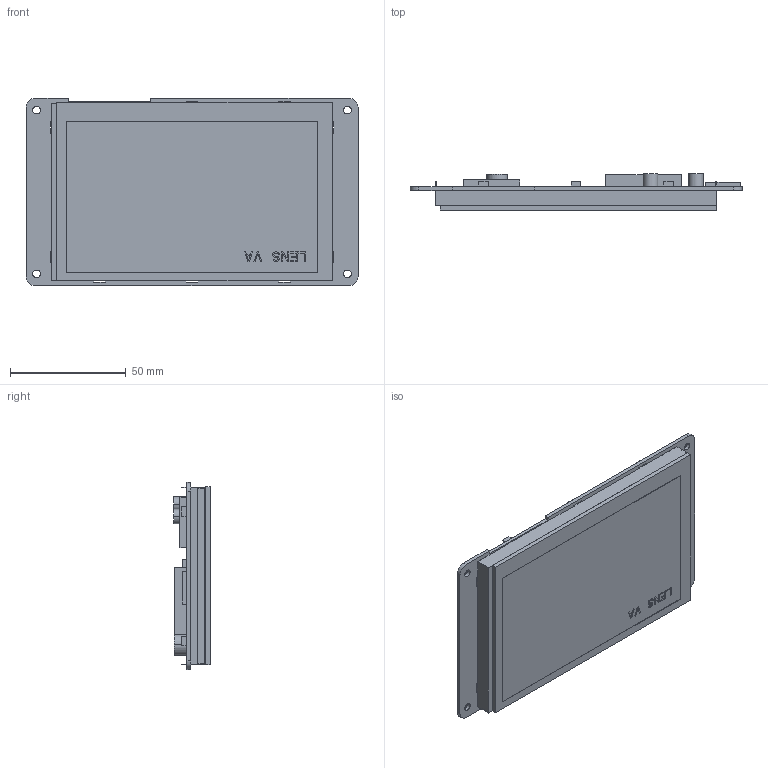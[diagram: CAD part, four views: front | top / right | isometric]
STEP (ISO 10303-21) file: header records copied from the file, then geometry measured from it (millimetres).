
FILE_DESCRIPTION((''),'2;1');
FILE_NAME('DMG80480C50-04WTC_ASM','2022-03-14T',('Administrator'),(''),'PRO/ENGINEER BY PARAMETRIC TECHNOLOGY CORPORATION, 2014320','PRO/ENGINEER BY PARAMETRIC TECHNOLOGY CORPORATION, 2014320','');
FILE_SCHEMA(('CONFIG_CONTROL_DESIGN','SHAPE_APPEARANCE_LAYERS_GROUPS'));
Length unit declared in the file: millimetre
Products named in the file (5): TK050002; LI80480T050HA4001; JC-GG050G2-0505-CR22; PCB; DMG80480C50-04WTC_ASM
Assembly tree (4 placements, depth 2):
  DMG80480C50-04WTC_ASM
    TK050002
    LI80480T050HA4001
    JC-GG050G2-0505-CR22
    PCB
Bounding box: 143.51 x 15.83 x 80.9 mm (x, y, z)
Volume: 73498.2 mm3; surface area: 73275.9 mm2
Topology: 4 solids, 4 shells, 320 faces, 876 edges, 584 vertices
Faces by surface type: plane 300, cylinder 20
Entity records: 10211 total; most frequent: CARTESIAN_POINT 1789, ORIENTED_EDGE 1752, DIRECTION 1574, EDGE_CURVE 876, VECTOR 836, LINE 836, VERTEX_POINT 584, EDGE_LOOP 370
